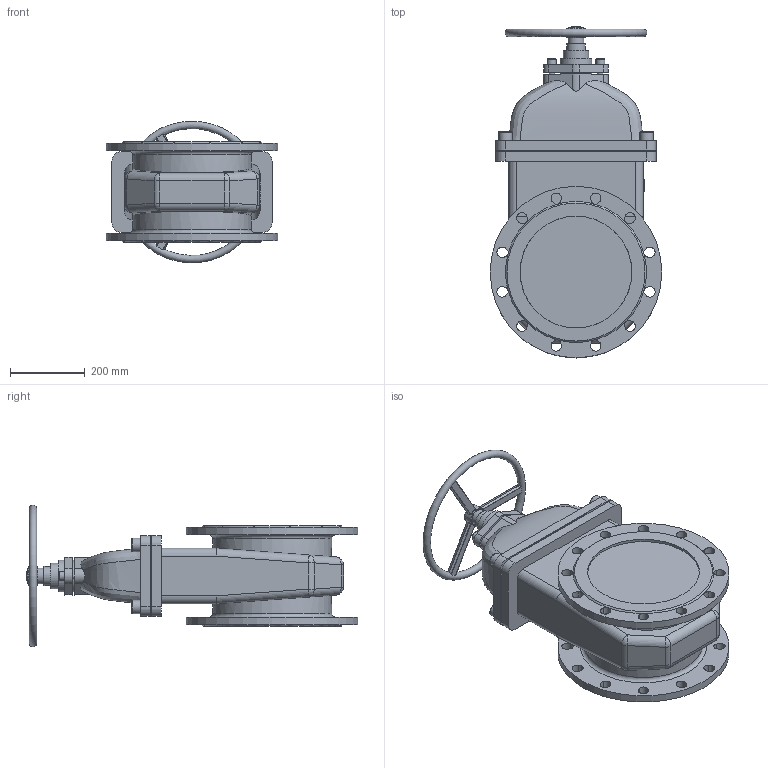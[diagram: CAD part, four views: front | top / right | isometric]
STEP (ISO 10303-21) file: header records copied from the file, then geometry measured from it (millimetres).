
FILE_DESCRIPTION(('STEP AP242'), '1');
FILE_NAME('GVWN1414N-2W-F-S blue Çàäâèæêà êëèíîâàÿ ñ íåâèäâèæíûì øòîêîì DN.ru Äó300 Ðó10-16', '', ('UNSPECIFIED'), ('UNSPECIFIED'), 'C3D Converter', 'C3D Toolkit', '');
FILE_SCHEMA(('AP242_MANAGED_MODEL_BASED_3D_ENGINEERING_MIM_LF { 1 0 10303 442 1 1 4 }'));
Length unit declared in the file: millimetre
Products named in the file (1): GVWN1414N-2W-F-S blue
Bounding box: 460 x 890 x 379.68 mm (x, y, z)
Volume: 48525393 mm3; surface area: 1552438.1 mm2
Topology: 1 solids, 1 shells, 382 faces, 1057 edges, 673 vertices
Faces by surface type: plane 153, cylinder 128, bspline 38, extrusion 27, torus 18, sphere 10, cone 8
Full cylindrical faces by diameter (mm): 16 x2, 24 x6, 25 x1, 36 x4, 40 x1, 42.5 x1, 50 x1, 51 x1, 68 x1, 85 x2, 300 x2, 318.75 x2, 460 x2
Entity records: 22120 total; most frequent: CARTESIAN_POINT 12272, ORIENTED_EDGE 1982, DIRECTION 1626, EDGE_CURVE 991, VERTEX_POINT 664, AXIS2_PLACEMENT_3D 597, EDGE_LOOP 499, VECTOR 432
